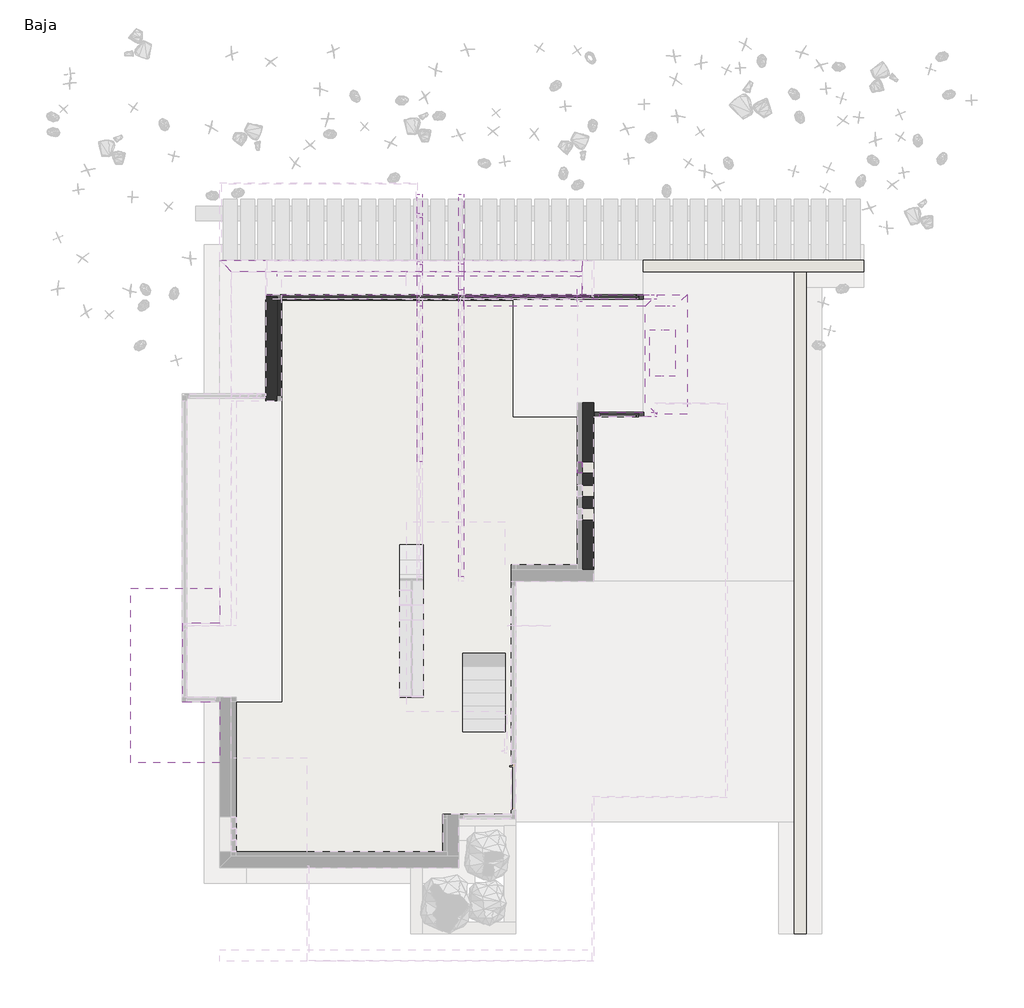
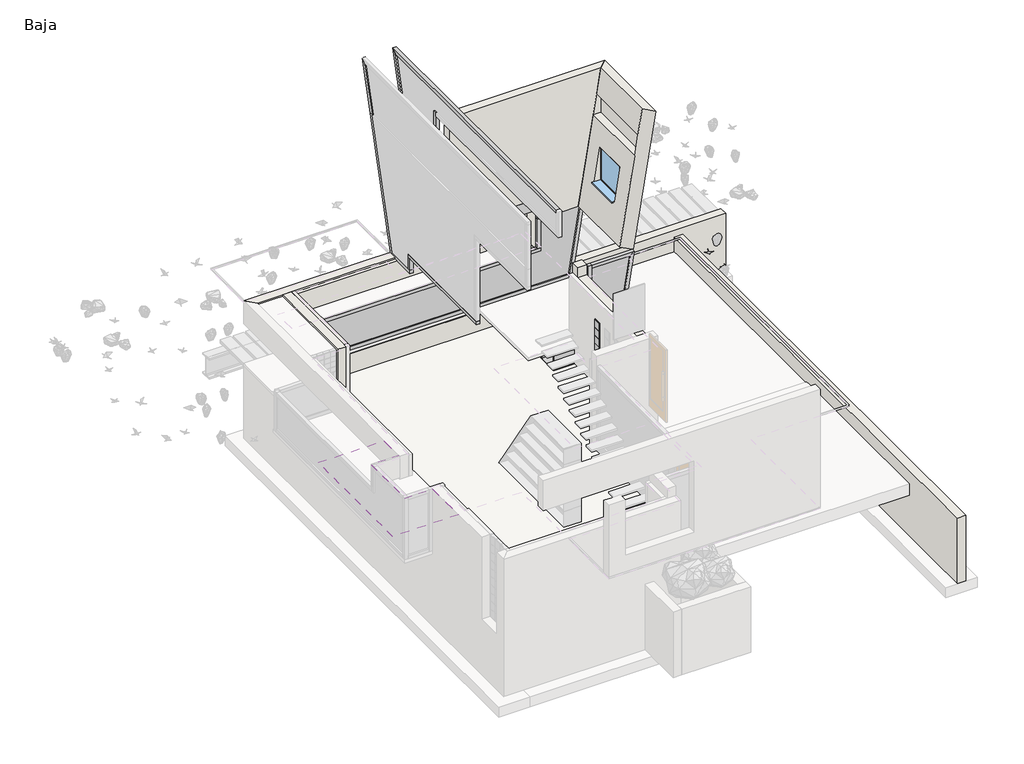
# One storey, part 4 of 7: 62 members, 13 walls, 12 plates, 1 covering, 1 slab, 1 window.
"""IFC4 building model written with IfcOpenShell, lengths in millimetres."""

from ifc_helpers import new_model, si_unit, frame, origin, place, context, project, spatial, polyline, outline, extrude, faceted_brep, transform, mapped, element, save
from components import montante_rectangular_20dad572, montante_rectangular_c9d8d644, montante_rectangular_d329d11d, montante_rectangular_d5d69b61, montante_rectangular_8270ee6e, montante_rectangular_849fd185, montante_rectangular_d17c8d82, montante_rectangular_a98bdce8, montante_rectangular_35cfc2e4, montante_rectangular_3e73b5a5, montante_rectangular_c3090772, montante_rectangular_cd6e0c02, montante_rectangular_30c55d37, montante_rectangular_b00ed3f1, montante_rectangular_montante_rectangular_10_x_10_cm_6ed3e390, montante_rectangular_montante_rectangular_10_x_10_cm_2e299aec, montante_rectangular_montante_rectangular_10_x_10_cm_8c97cb68, montante_rectangular_montante_rectangular_10_x_10_cm_cb36bce1, montante_rectangular_montante_rectangular_10_x_10_cm_84f536c5, montante_rectangular_montante_rectangular_10_x_10_cm_149f6d21, montante_rectangular_montante_rectangular_10_x_10_cm_9985ee12, montante_rectangular_montante_rectangular_10_x_10_cm_4f0e651d, montante_rectangular_montante_rectangular_10_x_10_cm_c94324d3, montante_rectangular_montante_rectangular_10_x_10_cm_7f4e9e92, montante_rectangular_montante_rectangular_10_x_10_cm_2760fa18, montante_rectangular_montante_rectangular_10_x_10_cm_9caafa42, montante_rectangular_montante_rectangular_10_x_10_cm_531712c0, montante_rectangular_montante_rectangular_10_x_10_cm_71f1473e, montante_rectangular_montante_rectangular_10_x_10_cm_c4aca977, montante_rectangular_montante_rectangular_10_x_10_cm_7a5472a0, montante_rectangular_montante_rectangular_10_x_10_cm_7ee5f2cd, montante_rectangular_montante_rectangular_10_x_10_cm_d168aece, montante_rectangular_montante_rectangular_10_x_10_cm_c63b47b4, montante_rectangular_montante_rectangular_10_x_10_cm_e4f58bcd, panel_de_sistema_f0514aad, panel_de_sistema_5076b700, panel_de_sistema_acristalado_03b9b68e, panel_de_sistema_acristalado_d22bfecd, panel_de_sistema_acristalado_60d12fba, panel_de_sistema_uniforme_6832dad9, ventana_simple_100_x_100_cm_c94a0fc4

model = new_model("IFC4")

# Units and contexts
model_context = context("Model", 3, world=origin())
ifc_project = project(units=[si_unit("LENGTHUNIT", "METRE", prefix="MILLI")], contexts=[model_context])

# Site, building, storey
site = spatial("IfcSite", under=ifc_project)
building = spatial("IfcBuilding", under=site)
storey = spatial("IfcBuildingStorey", under=building, Name="Baja", Elevation=0.0)

# Covering
placement = place(None, origin())
element("IfcCovering", 1, ObjectType="Techo falso de placa de metal", at=placement, inside=storey, context=model_context, shape_type="SweptSolid", body=[
    extrude(outline(polyline([(-6131.0601801, -4412.6669037), (-4231.0601801, -4412.6669037), (-4231.0601801, -5162.6669037), (-5031.0601801, -5162.6669037), (-5031.0601801, -6838.9241022), (-4231.0601801, -6838.9241022), (-4231.0601801, -8142.6669037), (-6131.0601801, -8142.6669037), (-6131.0601801, -4412.6669037)])), frame((0.0, 0.0, 2690.0), z_axis=(0.0, 0.0, 1.0), x_axis=(1.0, 0.0, 0.0)), (0.0, 0.0, 1.0), 10.0),
])

# Members
montante_rectangular_shape = montante_rectangular_20dad572(model_context)
element("IfcMember", 2, ObjectType="Montante rectangular : Junta de paves", at=placement, inside=storey, context=model_context, shape_type="MappedRepresentation", body=[
    mapped(montante_rectangular_shape, transform((3468.9398199, -1942.9261329, 2100.0), x_axis=(0.0, 0.0, 1.0), y_axis=(-1.0, 0.0, 0.0), z_axis=(0.0, -1.0, 0.0))),
])
montante_rectangular_2_shape = montante_rectangular_c9d8d644(model_context)
element("IfcMember", 3, ObjectType="Montante rectangular : Junta de paves", at=placement, inside=storey, context=model_context, shape_type="MappedRepresentation", body=[
    mapped(montante_rectangular_2_shape, transform((3468.9398199, -1712.9261329, 100.0), x_axis=(0.0, 0.0, -1.0), y_axis=(-1.0, 0.0, 0.0), z_axis=(0.0, 1.0, 0.0))),
])
montante_rectangular_3_shape = montante_rectangular_d329d11d(model_context)
element("IfcMember", 4, ObjectType="Montante rectangular : Junta de paves", at=placement, inside=storey, context=model_context, shape_type="MappedRepresentation", body=[
    mapped(montante_rectangular_3_shape, transform((3468.9398199, -1942.9261329, 350.0), x_axis=(0.0, 0.0, 1.0), y_axis=(-1.0, 0.0, 0.0), z_axis=(0.0, -1.0, 0.0))),
])
element("IfcMember", 5, ObjectType="Montante rectangular : Junta de paves", at=placement, inside=storey, context=model_context, shape_type="MappedRepresentation", body=[
    mapped(montante_rectangular_3_shape, transform((3468.9398199, -1942.9261329, 600.0), x_axis=(0.0, 0.0, 1.0), y_axis=(-1.0, 0.0, 0.0), z_axis=(0.0, -1.0, 0.0))),
])
element("IfcMember", 6, ObjectType="Montante rectangular : Junta de paves", at=placement, inside=storey, context=model_context, shape_type="MappedRepresentation", body=[
    mapped(montante_rectangular_3_shape, transform((3468.9398199, -1942.9261329, 850.0), x_axis=(0.0, 0.0, 1.0), y_axis=(-1.0, 0.0, 0.0), z_axis=(0.0, -1.0, 0.0))),
])
element("IfcMember", 7, ObjectType="Montante rectangular : Junta de paves", at=placement, inside=storey, context=model_context, shape_type="MappedRepresentation", body=[
    mapped(montante_rectangular_3_shape, transform((3468.9398199, -1942.9261329, 1100.0), x_axis=(0.0, 0.0, 1.0), y_axis=(-1.0, 0.0, 0.0), z_axis=(0.0, -1.0, 0.0))),
])
element("IfcMember", 8, ObjectType="Montante rectangular : Junta de paves", at=placement, inside=storey, context=model_context, shape_type="MappedRepresentation", body=[
    mapped(montante_rectangular_3_shape, transform((3468.9398199, -1942.9261329, 1350.0), x_axis=(0.0, 0.0, 1.0), y_axis=(-1.0, 0.0, 0.0), z_axis=(0.0, -1.0, 0.0))),
])
element("IfcMember", 9, ObjectType="Montante rectangular : Junta de paves", at=placement, inside=storey, context=model_context, shape_type="MappedRepresentation", body=[
    mapped(montante_rectangular_3_shape, transform((3468.9398199, -1942.9261329, 1600.0), x_axis=(0.0, 0.0, 1.0), y_axis=(-1.0, 0.0, 0.0), z_axis=(0.0, -1.0, 0.0))),
])
element("IfcMember", 10, ObjectType="Montante rectangular : Junta de paves", at=placement, inside=storey, context=model_context, shape_type="MappedRepresentation", body=[
    mapped(montante_rectangular_3_shape, transform((3468.9398199, -1942.9261329, 1850.0), x_axis=(0.0, 0.0, 1.0), y_axis=(-1.0, 0.0, 0.0), z_axis=(0.0, -1.0, 0.0))),
])
montante_rectangular_4_shape = montante_rectangular_d5d69b61(model_context)
element("IfcMember", 11, ObjectType="Montante rectangular : Junta de paves", at=placement, inside=storey, context=model_context, shape_type="MappedRepresentation", body=[
    mapped(montante_rectangular_4_shape, transform((3468.9398199, -1952.9261329, 100.0), x_axis=(0.0, -1.0, 0.0), y_axis=(-1.0, 0.0, 0.0), z_axis=(0.0, 0.0, -1.0))),
])
element("IfcMember", 12, ObjectType="Montante rectangular : Junta de paves", at=placement, inside=storey, context=model_context, shape_type="MappedRepresentation", body=[
    mapped(montante_rectangular_4_shape, transform((3468.9398199, -1952.9261329, 350.0), x_axis=(0.0, -1.0, 0.0), y_axis=(-1.0, 0.0, 0.0), z_axis=(0.0, 0.0, -1.0))),
])
element("IfcMember", 13, ObjectType="Montante rectangular : Junta de paves", at=placement, inside=storey, context=model_context, shape_type="MappedRepresentation", body=[
    mapped(montante_rectangular_4_shape, transform((3468.9398199, -1952.9261329, 600.0), x_axis=(0.0, -1.0, 0.0), y_axis=(-1.0, 0.0, 0.0), z_axis=(0.0, 0.0, -1.0))),
])
element("IfcMember", 14, ObjectType="Montante rectangular : Junta de paves", at=placement, inside=storey, context=model_context, shape_type="MappedRepresentation", body=[
    mapped(montante_rectangular_4_shape, transform((3468.9398199, -1952.9261329, 850.0), x_axis=(0.0, -1.0, 0.0), y_axis=(-1.0, 0.0, 0.0), z_axis=(0.0, 0.0, -1.0))),
])
element("IfcMember", 15, ObjectType="Montante rectangular : Junta de paves", at=placement, inside=storey, context=model_context, shape_type="MappedRepresentation", body=[
    mapped(montante_rectangular_4_shape, transform((3468.9398199, -1952.9261329, 1100.0), x_axis=(0.0, -1.0, 0.0), y_axis=(-1.0, 0.0, 0.0), z_axis=(0.0, 0.0, -1.0))),
])
element("IfcMember", 16, ObjectType="Montante rectangular : Junta de paves", at=placement, inside=storey, context=model_context, shape_type="MappedRepresentation", body=[
    mapped(montante_rectangular_4_shape, transform((3468.9398199, -1952.9261329, 1350.0), x_axis=(0.0, -1.0, 0.0), y_axis=(-1.0, 0.0, 0.0), z_axis=(0.0, 0.0, -1.0))),
])
element("IfcMember", 17, ObjectType="Montante rectangular : Junta de paves", at=placement, inside=storey, context=model_context, shape_type="MappedRepresentation", body=[
    mapped(montante_rectangular_4_shape, transform((3468.9398199, -1952.9261329, 1600.0), x_axis=(0.0, -1.0, 0.0), y_axis=(-1.0, 0.0, 0.0), z_axis=(0.0, 0.0, -1.0))),
])
element("IfcMember", 18, ObjectType="Montante rectangular : Junta de paves", at=placement, inside=storey, context=model_context, shape_type="MappedRepresentation", body=[
    mapped(montante_rectangular_4_shape, transform((3468.9398199, -1952.9261329, 1850.0), x_axis=(0.0, -1.0, 0.0), y_axis=(-1.0, 0.0, 0.0), z_axis=(0.0, 0.0, -1.0))),
])
montante_rectangular_5_shape = montante_rectangular_8270ee6e(model_context)
element("IfcMember", 19, ObjectType="Montante rectangular : Junta de paves", at=placement, inside=storey, context=model_context, shape_type="MappedRepresentation", body=[
    mapped(montante_rectangular_5_shape, transform((3468.9398199, -1702.9261329, 2100.0), x_axis=(0.0, 1.0, 0.0), y_axis=(-1.0, 0.0, 0.0), z_axis=(0.0, 0.0, 1.0))),
])
element("IfcMember", 20, ObjectType="Montante rectangular : Junta de paves", at=placement, inside=storey, context=model_context, shape_type="MappedRepresentation", body=[
    mapped(montante_rectangular_5_shape, transform((3468.9398199, -1702.9261329, 350.0), x_axis=(0.0, 1.0, 0.0), y_axis=(-1.0, 0.0, 0.0), z_axis=(0.0, 0.0, 1.0))),
])
element("IfcMember", 21, ObjectType="Montante rectangular : Junta de paves", at=placement, inside=storey, context=model_context, shape_type="MappedRepresentation", body=[
    mapped(montante_rectangular_5_shape, transform((3468.9398199, -1702.9261329, 600.0), x_axis=(0.0, 1.0, 0.0), y_axis=(-1.0, 0.0, 0.0), z_axis=(0.0, 0.0, 1.0))),
])
element("IfcMember", 22, ObjectType="Montante rectangular : Junta de paves", at=placement, inside=storey, context=model_context, shape_type="MappedRepresentation", body=[
    mapped(montante_rectangular_5_shape, transform((3468.9398199, -1702.9261329, 850.0), x_axis=(0.0, 1.0, 0.0), y_axis=(-1.0, 0.0, 0.0), z_axis=(0.0, 0.0, 1.0))),
])
element("IfcMember", 23, ObjectType="Montante rectangular : Junta de paves", at=placement, inside=storey, context=model_context, shape_type="MappedRepresentation", body=[
    mapped(montante_rectangular_5_shape, transform((3468.9398199, -1702.9261329, 1100.0), x_axis=(0.0, 1.0, 0.0), y_axis=(-1.0, 0.0, 0.0), z_axis=(0.0, 0.0, 1.0))),
])
element("IfcMember", 24, ObjectType="Montante rectangular : Junta de paves", at=placement, inside=storey, context=model_context, shape_type="MappedRepresentation", body=[
    mapped(montante_rectangular_5_shape, transform((3468.9398199, -1702.9261329, 1350.0), x_axis=(0.0, 1.0, 0.0), y_axis=(-1.0, 0.0, 0.0), z_axis=(0.0, 0.0, 1.0))),
])
element("IfcMember", 25, ObjectType="Montante rectangular : Junta de paves", at=placement, inside=storey, context=model_context, shape_type="MappedRepresentation", body=[
    mapped(montante_rectangular_5_shape, transform((3468.9398199, -1702.9261329, 1600.0), x_axis=(0.0, 1.0, 0.0), y_axis=(-1.0, 0.0, 0.0), z_axis=(0.0, 0.0, 1.0))),
])
element("IfcMember", 26, ObjectType="Montante rectangular : Junta de paves", at=placement, inside=storey, context=model_context, shape_type="MappedRepresentation", body=[
    mapped(montante_rectangular_5_shape, transform((3468.9398199, -1702.9261329, 1850.0), x_axis=(0.0, 1.0, 0.0), y_axis=(-1.0, 0.0, 0.0), z_axis=(0.0, 0.0, 1.0))),
])
montante_rectangular_6_shape = montante_rectangular_849fd185(model_context)
element("IfcMember", 27, ObjectType="Montante rectangular : CIRCLES 2", at=placement, inside=storey, context=model_context, shape_type="MappedRepresentation", body=[
    mapped(montante_rectangular_6_shape, transform((3168.9398199, -83.1853621, 700.0), x_axis=(0.0, 0.0, 1.0), y_axis=(1.0, 0.0, 0.0), z_axis=(0.0, 1.0, 0.0))),
])
montante_rectangular_7_shape = montante_rectangular_d17c8d82(model_context)
element("IfcMember", 28, ObjectType="Montante rectangular : CIRCLES 2", at=placement, inside=storey, context=model_context, shape_type="MappedRepresentation", body=[
    mapped(montante_rectangular_7_shape, transform((3168.9398199, 516.8146379, 700.0), x_axis=(0.0, 0.0, 1.0), y_axis=(1.0, 0.0, 0.0), z_axis=(0.0, 1.0, 0.0))),
])
element("IfcMember", 29, ObjectType="Montante rectangular : CIRCLES 2", at=placement, inside=storey, context=model_context, shape_type="MappedRepresentation", body=[
    mapped(montante_rectangular_7_shape, transform((3168.9398199, 1116.8146379, 700.0), x_axis=(0.0, 0.0, 1.0), y_axis=(1.0, 0.0, 0.0), z_axis=(0.0, 1.0, 0.0))),
])
element("IfcMember", 30, ObjectType="Montante rectangular : CIRCLES 2", at=placement, inside=storey, context=model_context, shape_type="MappedRepresentation", body=[
    mapped(montante_rectangular_7_shape, transform((3168.9398199, 1716.8146379, 700.0), x_axis=(0.0, 0.0, 1.0), y_axis=(1.0, 0.0, 0.0), z_axis=(0.0, 1.0, 0.0))),
])
montante_rectangular_8_shape = montante_rectangular_a98bdce8(model_context)
element("IfcMember", 31, ObjectType="Montante rectangular : CIRCLES 2", at=placement, inside=storey, context=model_context, shape_type="MappedRepresentation", body=[
    mapped(montante_rectangular_8_shape, transform((3168.9398199, -693.1853621, 100.0), x_axis=(0.0, 0.0, -1.0), y_axis=(1.0, 0.0, 0.0), z_axis=(0.0, -1.0, 0.0))),
])
montante_rectangular_9_shape = montante_rectangular_35cfc2e4(model_context)
element("IfcMember", 32, ObjectType="Montante rectangular : CIRCLES 2", at=placement, inside=storey, context=model_context, shape_type="MappedRepresentation", body=[
    mapped(montante_rectangular_9_shape, transform((3168.9398199, -83.1853621, 100.0), x_axis=(0.0, 0.0, -1.0), y_axis=(1.0, 0.0, 0.0), z_axis=(0.0, -1.0, 0.0))),
])
element("IfcMember", 33, ObjectType="Montante rectangular : CIRCLES 2", at=placement, inside=storey, context=model_context, shape_type="MappedRepresentation", body=[
    mapped(montante_rectangular_9_shape, transform((3168.9398199, 516.8146379, 100.0), x_axis=(0.0, 0.0, -1.0), y_axis=(1.0, 0.0, 0.0), z_axis=(0.0, -1.0, 0.0))),
])
element("IfcMember", 34, ObjectType="Montante rectangular : CIRCLES 2", at=placement, inside=storey, context=model_context, shape_type="MappedRepresentation", body=[
    mapped(montante_rectangular_9_shape, transform((3168.9398199, 1116.8146379, 100.0), x_axis=(0.0, 0.0, -1.0), y_axis=(1.0, 0.0, 0.0), z_axis=(0.0, -1.0, 0.0))),
])
montante_rectangular_10_shape = montante_rectangular_3e73b5a5(model_context)
element("IfcMember", 35, ObjectType="Montante rectangular : CIRCLES 2", at=placement, inside=storey, context=model_context, shape_type="MappedRepresentation", body=[
    mapped(montante_rectangular_10_shape, transform((3168.9398199, -83.1853621, 120.0), x_axis=(0.0, 1.0, 0.0), y_axis=(1.0, 0.0, 0.0), z_axis=(0.0, 0.0, -1.0))),
])
element("IfcMember", 36, ObjectType="Montante rectangular : CIRCLES 2", at=placement, inside=storey, context=model_context, shape_type="MappedRepresentation", body=[
    mapped(montante_rectangular_10_shape, transform((3168.9398199, 516.8146379, 120.0), x_axis=(0.0, 1.0, 0.0), y_axis=(1.0, 0.0, 0.0), z_axis=(0.0, 0.0, -1.0))),
])
element("IfcMember", 37, ObjectType="Montante rectangular : CIRCLES 2", at=placement, inside=storey, context=model_context, shape_type="MappedRepresentation", body=[
    mapped(montante_rectangular_10_shape, transform((3168.9398199, 1116.8146379, 120.0), x_axis=(0.0, 1.0, 0.0), y_axis=(1.0, 0.0, 0.0), z_axis=(0.0, 0.0, -1.0))),
])
element("IfcMember", 38, ObjectType="Montante rectangular : CIRCLES 2", at=placement, inside=storey, context=model_context, shape_type="MappedRepresentation", body=[
    mapped(montante_rectangular_10_shape, transform((3168.9398199, 1716.8146379, 120.0), x_axis=(0.0, 1.0, 0.0), y_axis=(1.0, 0.0, 0.0), z_axis=(0.0, 0.0, -1.0))),
])
montante_rectangular_11_shape = montante_rectangular_c3090772(model_context)
element("IfcMember", 39, ObjectType="Montante rectangular : CIRCLES 2", at=placement, inside=storey, context=model_context, shape_type="MappedRepresentation", body=[
    mapped(montante_rectangular_11_shape, transform((3168.9398199, 1744.072658, 120.0), x_axis=(0.0, 1.0, 0.0), y_axis=(1.0, 0.0, 0.0), z_axis=(0.0, 0.0, -1.0))),
])
montante_rectangular_12_shape = montante_rectangular_cd6e0c02(model_context)
element("IfcMember", 40, ObjectType="Montante rectangular : CIRCLES 2", at=placement, inside=storey, context=model_context, shape_type="MappedRepresentation", body=[
    mapped(montante_rectangular_12_shape, transform((3168.9398199, -693.1853621, 680.0), x_axis=(0.0, -1.0, 0.0), y_axis=(1.0, 0.0, 0.0), z_axis=(0.0, 0.0, 1.0))),
])
montante_rectangular_13_shape = montante_rectangular_30c55d37(model_context)
element("IfcMember", 41, ObjectType="Montante rectangular : CIRCLES 2", at=placement, inside=storey, context=model_context, shape_type="MappedRepresentation", body=[
    mapped(montante_rectangular_13_shape, transform((3168.9398199, 1744.072658, 700.0), x_axis=(0.0, 0.0, 1.0), y_axis=(1.0, 0.0, 0.0), z_axis=(0.0, 1.0, 0.0))),
])
montante_rectangular_14_shape = montante_rectangular_b00ed3f1(model_context)
element("IfcMember", 42, ObjectType="Montante rectangular : CIRCLES 2", at=placement, inside=storey, context=model_context, shape_type="MappedRepresentation", body=[
    mapped(montante_rectangular_14_shape, transform((3168.9398199, 1716.8146379, 100.0), x_axis=(0.0, 0.0, -1.0), y_axis=(1.0, 0.0, 0.0), z_axis=(0.0, -1.0, 0.0))),
])
montante_rectangular_montante_rectangular_10_x_10_cm_shape = montante_rectangular_montante_rectangular_10_x_10_cm_6ed3e390(model_context)
element("IfcMember", 43, ObjectType="Montante rectangular : Montante rectangular - 10 x 10 cm", at=placement, inside=storey, context=model_context, shape_type="MappedRepresentation", body=[
    mapped(montante_rectangular_montante_rectangular_10_x_10_cm_shape, transform((3793.9398199, -693.1853621, 2980.0), x_axis=(-1.0, 0.0, 0.0), y_axis=(0.0, -1.0, 0.0), z_axis=(0.0, 0.0, 1.0))),
])
montante_rectangular_montante_rectangular_10_x_10_cm_2_shape = montante_rectangular_montante_rectangular_10_x_10_cm_2e299aec(model_context)
element("IfcMember", 44, ObjectType="Montante rectangular : Montante rectangular - 10 x 10 cm", at=placement, inside=storey, context=model_context, shape_type="MappedRepresentation", body=[
    mapped(montante_rectangular_montante_rectangular_10_x_10_cm_2_shape, transform((4768.9398199, 1819.072658, 800.0), x_axis=(0.0, 0.0, -1.0), y_axis=(0.0, 1.0, 0.0), z_axis=(1.0, 0.0, 0.0))),
])
montante_rectangular_montante_rectangular_10_x_10_cm_3_shape = montante_rectangular_montante_rectangular_10_x_10_cm_8c97cb68(model_context)
element("IfcMember", 45, ObjectType="Montante rectangular : Montante rectangular - 10 x 10 cm", at=placement, inside=storey, context=model_context, shape_type="MappedRepresentation", body=[
    mapped(montante_rectangular_montante_rectangular_10_x_10_cm_3_shape, transform((3893.9398199, -693.1853621, 800.0), x_axis=(0.0, 0.0, -1.0), y_axis=(0.0, -1.0, 0.0), z_axis=(-1.0, 0.0, 0.0))),
])
montante_rectangular_montante_rectangular_10_x_10_cm_4_shape = montante_rectangular_montante_rectangular_10_x_10_cm_cb36bce1(model_context)
element("IfcMember", 46, ObjectType="Montante rectangular : Montante rectangular - 10 x 10 cm", at=placement, inside=storey, context=model_context, shape_type="MappedRepresentation", body=[
    mapped(montante_rectangular_montante_rectangular_10_x_10_cm_4_shape, transform((5121.690629, -693.1853621, 2980.0), x_axis=(0.0, 0.0, 1.0), y_axis=(0.0, -1.0, 0.0), z_axis=(1.0, 0.0, 0.0))),
])
montante_rectangular_montante_rectangular_10_x_10_cm_5_shape = montante_rectangular_montante_rectangular_10_x_10_cm_84f536c5(model_context)
element("IfcMember", 47, ObjectType="Montante rectangular : Montante rectangular - 10 x 10 cm", at=placement, inside=storey, context=model_context, shape_type="MappedRepresentation", body=[
    mapped(montante_rectangular_montante_rectangular_10_x_10_cm_5_shape, transform((4768.9398199, -693.1853621, 800.0), x_axis=(0.9871599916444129, 0.0, -0.159734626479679), y_axis=(0.0, -1.0, 0.0), z_axis=(-0.159734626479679, 0.0, -0.9871599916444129))),
])
montante_rectangular_montante_rectangular_10_x_10_cm_6_shape = montante_rectangular_montante_rectangular_10_x_10_cm_149f6d21(model_context)
element("IfcMember", 48, ObjectType="Montante rectangular : Montante rectangular - 10 x 10 cm", at=placement, inside=storey, context=model_context, shape_type="MappedRepresentation", body=[
    mapped(montante_rectangular_montante_rectangular_10_x_10_cm_6_shape, transform((49.1398199, 2583.8536339, 2650.0), x_axis=(0.0, 0.0, -1.0), y_axis=(-1.0, 0.0, 0.0), z_axis=(0.0, 1.0, 0.0))),
])
montante_rectangular_montante_rectangular_10_x_10_cm_7_shape = montante_rectangular_montante_rectangular_10_x_10_cm_9985ee12(model_context)
element("IfcMember", 49, ObjectType="Montante rectangular : Montante rectangular - 10 x 10 cm", at=placement, inside=storey, context=model_context, shape_type="MappedRepresentation", body=[
    mapped(montante_rectangular_montante_rectangular_10_x_10_cm_7_shape, transform((49.1398199, 1719.072658, 3100.0), x_axis=(0.0, 0.0, -1.0), y_axis=(-1.0, 0.0, 0.0), z_axis=(0.0, 1.0, 0.0))),
])
montante_rectangular_montante_rectangular_10_x_10_cm_8_shape = montante_rectangular_montante_rectangular_10_x_10_cm_4f0e651d(model_context)
element("IfcMember", 50, ObjectType="Montante rectangular : Montante rectangular - 10 x 10 cm", at=placement, inside=storey, context=model_context, shape_type="MappedRepresentation", body=[
    mapped(montante_rectangular_montante_rectangular_10_x_10_cm_8_shape, transform((49.1398199, 4011.8960075, 7790.0), x_axis=(0.0, 0.9635051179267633, -0.26768990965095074), y_axis=(-1.0, 0.0, 0.0), z_axis=(0.0, 0.26768990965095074, 0.9635051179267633))),
])
montante_rectangular_montante_rectangular_10_x_10_cm_9_shape = montante_rectangular_montante_rectangular_10_x_10_cm_c94324d3(model_context)
element("IfcMember", 51, ObjectType="Montante rectangular : Montante rectangular - 10 x 10 cm", at=placement, inside=storey, context=model_context, shape_type="MappedRepresentation", body=[
    mapped(montante_rectangular_montante_rectangular_10_x_10_cm_9_shape, transform((49.1398199, 3609.043587, 6340.0), x_axis=(0.0, 0.9635051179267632, -0.2676899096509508), y_axis=(-1.0, 0.0, 0.0), z_axis=(0.0, 0.2676899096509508, 0.9635051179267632))),
])
montante_rectangular_montante_rectangular_10_x_10_cm_10_shape = montante_rectangular_montante_rectangular_10_x_10_cm_7f4e9e92(model_context)
element("IfcMember", 52, ObjectType="Montante rectangular : Montante rectangular - 10 x 10 cm", at=placement, inside=storey, context=model_context, shape_type="MappedRepresentation", body=[
    mapped(montante_rectangular_montante_rectangular_10_x_10_cm_10_shape, transform((3768.9398199, 1819.072658, 3000.0), x_axis=(0.0, 0.0, 1.0), y_axis=(0.0, 1.0, 0.0), z_axis=(-1.0, 0.0, 0.0))),
])
montante_rectangular_montante_rectangular_10_x_10_cm_11_shape = montante_rectangular_montante_rectangular_10_x_10_cm_2760fa18(model_context)
element("IfcMember", 53, ObjectType="Montante rectangular : Montante rectangular - 10 x 10 cm", at=placement, inside=storey, context=model_context, shape_type="MappedRepresentation", body=[
    mapped(montante_rectangular_montante_rectangular_10_x_10_cm_11_shape, transform((-3250.1061235, 1819.072658, 2000.0), x_axis=(0.0, 0.0, 1.0), y_axis=(0.0, 1.0, 0.0), z_axis=(-1.0, 0.0, 0.0))),
])
montante_rectangular_montante_rectangular_10_x_10_cm_12_shape = montante_rectangular_montante_rectangular_10_x_10_cm_9caafa42(model_context)
element("IfcMember", 54, ObjectType="Montante rectangular : Montante rectangular - 10 x 10 cm", at=placement, inside=storey, context=model_context, shape_type="MappedRepresentation", body=[
    mapped(montante_rectangular_montante_rectangular_10_x_10_cm_12_shape, transform((5121.690629, 1819.072658, 3000.0), x_axis=(0.9873880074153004, 0.0, -0.1583190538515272), y_axis=(0.0, 1.0, 0.0), z_axis=(0.15831905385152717, 0.0, 0.9873880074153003))),
])
montante_rectangular_montante_rectangular_10_x_10_cm_13_shape = montante_rectangular_montante_rectangular_10_x_10_cm_531712c0(model_context)
element("IfcMember", 55, ObjectType="Montante rectangular : Montante rectangular - 10 x 10 cm", at=placement, inside=storey, context=model_context, shape_type="MappedRepresentation", body=[
    mapped(montante_rectangular_montante_rectangular_10_x_10_cm_13_shape, transform((-2900.1061235, 1819.072658, 2000.0), x_axis=(0.0, 0.0, 1.0), y_axis=(0.0, 1.0, 0.0), z_axis=(-1.0, 0.0, 0.0))),
])
montante_rectangular_montante_rectangular_10_x_10_cm_14_shape = montante_rectangular_montante_rectangular_10_x_10_cm_71f1473e(model_context)
element("IfcMember", 56, ObjectType="Montante rectangular : Montante rectangular - 10 x 10 cm", at=placement, inside=storey, context=model_context, shape_type="MappedRepresentation", body=[
    mapped(montante_rectangular_montante_rectangular_10_x_10_cm_14_shape, transform((-2900.1061235, 1819.072658, 800.0), x_axis=(0.0, 0.0, -1.0), y_axis=(0.0, 1.0, 0.0), z_axis=(1.0, 0.0, 0.0))),
])
montante_rectangular_montante_rectangular_10_x_10_cm_15_shape = montante_rectangular_montante_rectangular_10_x_10_cm_c4aca977(model_context)
element("IfcMember", 57, ObjectType="Montante rectangular : Montante rectangular - 10 x 10 cm", at=placement, inside=storey, context=model_context, shape_type="MappedRepresentation", body=[
    mapped(montante_rectangular_montante_rectangular_10_x_10_cm_15_shape, transform((-3250.1061235, 1819.072658, 900.0), x_axis=(-1.0, 0.0, 0.0), y_axis=(0.0, 1.0, 0.0), z_axis=(0.0, 0.0, -1.0))),
])
montante_rectangular_montante_rectangular_10_x_10_cm_16_shape = montante_rectangular_montante_rectangular_10_x_10_cm_7a5472a0(model_context)
element("IfcMember", 58, ObjectType="Montante rectangular : Montante rectangular - 10 x 10 cm", at=placement, inside=storey, context=model_context, shape_type="MappedRepresentation", body=[
    mapped(montante_rectangular_montante_rectangular_10_x_10_cm_16_shape, transform((3768.9398199, 1819.072658, 2000.0), x_axis=(-1.0, 0.0, 0.0), y_axis=(0.0, 1.0, 0.0), z_axis=(0.0, 0.0, -1.0))),
])
element("IfcMember", 59, ObjectType="Montante rectangular : Montante rectangular - 10 x 10 cm", at=placement, inside=storey, context=model_context, shape_type="MappedRepresentation", body=[
    mapped(montante_rectangular_montante_rectangular_10_x_10_cm_11_shape, transform((49.1398199, 1619.072658, 2750.0), x_axis=(0.0, -1.0, 0.0), y_axis=(-1.0, 0.0, 0.0), z_axis=(0.0, 0.0, -1.0))),
])
montante_rectangular_montante_rectangular_10_x_10_cm_17_shape = montante_rectangular_montante_rectangular_10_x_10_cm_7ee5f2cd(model_context)
element("IfcMember", 60, ObjectType="Montante rectangular : Montante rectangular - 10 x 10 cm", at=placement, inside=storey, context=model_context, shape_type="MappedRepresentation", body=[
    mapped(montante_rectangular_montante_rectangular_10_x_10_cm_17_shape, transform((935.5350958, 4011.8960075, 7790.0), x_axis=(0.0, 0.0, 1.0), y_axis=(1.0, 0.0, 0.0), z_axis=(0.0, 1.0, 0.0))),
])
montante_rectangular_montante_rectangular_10_x_10_cm_18_shape = montante_rectangular_montante_rectangular_10_x_10_cm_d168aece(model_context)
element("IfcMember", 61, ObjectType="Montante rectangular : Montante rectangular - 10 x 10 cm", at=placement, inside=storey, context=model_context, shape_type="MappedRepresentation", body=[
    mapped(montante_rectangular_montante_rectangular_10_x_10_cm_18_shape, transform((935.5350958, 1969.072658, 2700.0), x_axis=(0.0, 0.0, -1.0), y_axis=(1.0, 0.0, 0.0), z_axis=(0.0, -1.0, 0.0))),
])
montante_rectangular_montante_rectangular_10_x_10_cm_19_shape = montante_rectangular_montante_rectangular_10_x_10_cm_c63b47b4(model_context)
element("IfcMember", 62, ObjectType="Montante rectangular : Montante rectangular - 10 x 10 cm", at=placement, inside=storey, context=model_context, shape_type="MappedRepresentation", body=[
    mapped(montante_rectangular_montante_rectangular_10_x_10_cm_19_shape, transform((935.5350958, 2597.7450967, 2700.0), x_axis=(0.0, 0.9635051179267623, -0.26768990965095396), y_axis=(1.0, 0.0, 0.0), z_axis=(0.0, -0.26768990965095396, -0.9635051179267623))),
])
montante_rectangular_montante_rectangular_10_x_10_cm_20_shape = montante_rectangular_montante_rectangular_10_x_10_cm_e4f58bcd(model_context)
element("IfcMember", 63, ObjectType="Montante rectangular : Montante rectangular - 10 x 10 cm", at=placement, inside=storey, context=model_context, shape_type="MappedRepresentation", body=[
    mapped(montante_rectangular_montante_rectangular_10_x_10_cm_20_shape, transform((935.5350958, 1869.072658, 7100.0), x_axis=(0.0, -1.0, 0.0), y_axis=(1.0, 0.0, 0.0), z_axis=(0.0, 0.0, 1.0))),
])

# Plates
panel_de_sistema_shape = panel_de_sistema_f0514aad(model_context)
element("IfcPlate", 64, ObjectType="Panel de sistema : PAVES", at=placement, inside=storey, context=model_context, shape_type="MappedRepresentation", body=[
    mapped(panel_de_sistema_shape, transform((3468.9398199, -1827.9261329, 110.0), x_axis=(0.0, -1.0, 0.0), y_axis=(1.0, 0.0, 0.0), z_axis=(0.0, 0.0, 1.0))),
])
element("IfcPlate", 65, ObjectType="Panel de sistema : PAVES", at=placement, inside=storey, context=model_context, shape_type="MappedRepresentation", body=[
    mapped(panel_de_sistema_shape, transform((3468.9398199, -1827.9261329, 1855.0), x_axis=(0.0, -1.0, 0.0), y_axis=(1.0, 0.0, 0.0), z_axis=(0.0, 0.0, 1.0))),
])
panel_de_sistema_2_shape = panel_de_sistema_5076b700(model_context)
element("IfcPlate", 66, ObjectType="Panel de sistema : PAVES", at=placement, inside=storey, context=model_context, shape_type="MappedRepresentation", body=[
    mapped(panel_de_sistema_2_shape, transform((3468.9398199, -1827.9261329, 355.0), x_axis=(0.0, -1.0, 0.0), y_axis=(1.0, 0.0, 0.0), z_axis=(0.0, 0.0, 1.0))),
])
element("IfcPlate", 67, ObjectType="Panel de sistema : PAVES", at=placement, inside=storey, context=model_context, shape_type="MappedRepresentation", body=[
    mapped(panel_de_sistema_2_shape, transform((3468.9398199, -1827.9261329, 605.0), x_axis=(0.0, -1.0, 0.0), y_axis=(1.0, 0.0, 0.0), z_axis=(0.0, 0.0, 1.0))),
])
element("IfcPlate", 68, ObjectType="Panel de sistema : PAVES", at=placement, inside=storey, context=model_context, shape_type="MappedRepresentation", body=[
    mapped(panel_de_sistema_2_shape, transform((3468.9398199, -1827.9261329, 855.0), x_axis=(0.0, -1.0, 0.0), y_axis=(1.0, 0.0, 0.0), z_axis=(0.0, 0.0, 1.0))),
])
element("IfcPlate", 69, ObjectType="Panel de sistema : PAVES", at=placement, inside=storey, context=model_context, shape_type="MappedRepresentation", body=[
    mapped(panel_de_sistema_2_shape, transform((3468.9398199, -1827.9261329, 1105.0), x_axis=(0.0, -1.0, 0.0), y_axis=(1.0, 0.0, 0.0), z_axis=(0.0, 0.0, 1.0))),
])
element("IfcPlate", 70, ObjectType="Panel de sistema : PAVES", at=placement, inside=storey, context=model_context, shape_type="MappedRepresentation", body=[
    mapped(panel_de_sistema_2_shape, transform((3468.9398199, -1827.9261329, 1355.0), x_axis=(0.0, -1.0, 0.0), y_axis=(1.0, 0.0, 0.0), z_axis=(0.0, 0.0, 1.0))),
])
element("IfcPlate", 71, ObjectType="Panel de sistema : PAVES", at=placement, inside=storey, context=model_context, shape_type="MappedRepresentation", body=[
    mapped(panel_de_sistema_2_shape, transform((3468.9398199, -1827.9261329, 1605.0), x_axis=(0.0, -1.0, 0.0), y_axis=(1.0, 0.0, 0.0), z_axis=(0.0, 0.0, 1.0))),
])
panel_de_sistema_acristalado_shape = panel_de_sistema_acristalado_03b9b68e(model_context)
element("IfcPlate", 72, ObjectType="Panel de sistema : Acristalado", at=placement, inside=storey, context=model_context, shape_type="MappedRepresentation", body=[
    mapped(panel_de_sistema_acristalado_shape, transform((1052.1365346, 1819.072658, 900.0), x_axis=(-1.0, 0.0, 0.0), y_axis=(0.0, -1.0, 0.0), z_axis=(0.0, 0.0, 1.0))),
])
panel_de_sistema_acristalado_2_shape = panel_de_sistema_acristalado_d22bfecd(model_context)
element("IfcPlate", 73, ObjectType="Panel de sistema : Acristalado", at=placement, inside=storey, context=model_context, shape_type="MappedRepresentation", body=[
    mapped(panel_de_sistema_acristalado_2_shape, transform((4449.0742586, -693.1853621, 900.0), x_axis=(1.0, 0.0, 0.0), y_axis=(0.0, 1.0, 0.0), z_axis=(0.0, 0.0, 1.0))),
])
panel_de_sistema_acristalado_3_shape = panel_de_sistema_acristalado_60d12fba(model_context)
element("IfcPlate", 74, ObjectType="Panel de sistema : Acristalado", at=placement, inside=storey, context=model_context, shape_type="MappedRepresentation", body=[
    mapped(panel_de_sistema_acristalado_3_shape, transform((2352.2374579, 1819.072658, 3150.0), x_axis=(-1.0, 0.0, 0.0), y_axis=(0.0, -1.0, 0.0), z_axis=(0.0, 0.0, 1.0))),
])
panel_de_sistema_uniforme_shape = panel_de_sistema_uniforme_6832dad9(model_context)
element("IfcPlate", 75, ObjectType="Panel de sistema : Uniforme", at=placement, inside=storey, context=model_context, shape_type="MappedRepresentation", body=[
    mapped(panel_de_sistema_uniforme_shape, transform((-3025.1061235, 1819.072658, 900.0), x_axis=(-1.0, 0.0, 0.0), y_axis=(0.0, -1.0, 0.0), z_axis=(0.0, 0.0, 1.0))),
])

# Slab
element("IfcSlab", 76, ObjectType="Con bovedilla cerámica - 40 cm", at=placement, inside=storey, context=model_context, shape_type="Brep", body=[
    faceted_brep([(3518.9398199, 2357.3330963, -300.0), (3518.9398199, -4012.6669037, -300.0), (2061.6012558, -4012.6669037, -300.0), (2061.6012558, -9402.6669037, -300.0), (636.8974058, -9402.6669037, -300.0), (636.8974058, -10142.6669037, -300.0), (-3981.0601801, -10142.6669037, -300.0), (-3981.0601801, 2357.3330963, -300.0), (3518.9398199, 2357.3330963, 100.0), (-2900.1061235, 2357.3330963, 100.0), (-3000.1061235, 2357.3330963, 100.0), (-3981.0601801, 2357.3330963, 100.0), (-3981.0601801, -6838.9241022, 100.0), (-3981.0601801, -10142.6669037, 100.0), (-3881.0601801, -10142.6669037, 100.0), (636.8974058, -10142.6669037, 100.0), (636.8974058, -10047.6669037, 100.0), (636.8974058, -9402.6669037, 100.0), (2061.6012558, -9402.6669037, 100.0), (2061.6012558, -4012.6669037, 100.0), (3518.9398199, -4012.6669037, 100.0), (636.8974058, -10142.6669037, 0.0), (-3981.0601801, -10142.6669037, 0.0)], [[[0, 1, 2, 3, 4, 5, 6, 7]], [[8, 9, 10, 11, 12, 13, 14, 15, 16, 17, 18, 19, 20]], [[1, 0, 8, 20]], [[2, 1, 20, 19]], [[3, 2, 19, 18]], [[4, 3, 18, 17]], [[5, 4, 17, 16, 15, 21]], [[6, 5, 21, 15, 14, 13, 22]], [[7, 6, 22, 13, 12, 11]], [[0, 7, 11, 10, 9, 8]]]),
])

# Walls
element("IfcWall", 77, ObjectType="Hormigón - 25 cm", at=placement, inside=storey, context=model_context, shape_type="Brep", body=[
    faceted_brep([(3768.9398199, 2607.3330963, 700.0), (3768.9398199, 2357.3330963, 700.0), (3768.9398199, -443.1853621, 700.0), (3768.9398199, -443.1853621, 2700.0), (3768.9398199, -443.1853621, 3000.0), (3768.9398199, -693.1853621, 3000.0), (3768.9398199, -693.1853621, 2700.0), (3768.9398199, -4012.6669037, 2700.0), (3768.9398199, -4012.6669037, -1500.0), (3768.9398199, 2607.3330963, -1500.0), (3768.9398199, 2607.3330963, -1000.0), (3768.9398199, -1702.9261329, 2100.0), (3768.9398199, -1702.9261329, 100.0), (3768.9398199, -1952.9261329, 100.0), (3768.9398199, -1952.9261329, 2100.0), (3768.9398199, -2452.9261329, 100.0), (3768.9398199, -2452.9261329, 2100.0), (3768.9398199, -2202.9261329, 2100.0), (3768.9398199, -2202.9261329, 100.0), (3768.9398199, -2952.9261329, 100.0), (3768.9398199, -2952.9261329, 2100.0), (3768.9398199, -2702.9261329, 2100.0), (3768.9398199, -2702.9261329, 100.0), (3518.9398199, -443.1853621, 700.0), (3518.9398199, 1744.072658, 700.0), (3518.9398199, 1844.072658, 700.0), (3518.9398199, 2357.3330963, 700.0), (3518.9398199, 2607.3330963, 700.0), (3518.9398199, 2607.3330963, -1500.0), (3518.9398199, 2357.3330963, -1500.0), (3518.9398199, -4012.6669037, -1500.0), (3518.9398199, -4012.6669037, 0.0), (3518.9398199, -4012.6669037, 2700.0), (3518.9398199, -693.1853621, 2700.0), (3518.9398199, -693.1853621, 3000.0), (3518.9398199, -443.1853621, 3000.0), (3518.9398199, -443.1853621, 2700.0), (3518.9398199, -1702.9261329, 100.0), (3518.9398199, -1702.9261329, 2100.0), (3518.9398199, -1952.9261329, 2100.0), (3518.9398199, -1952.9261329, 100.0), (3518.9398199, -2452.9261329, 2100.0), (3518.9398199, -2452.9261329, 100.0), (3518.9398199, -2202.9261329, 100.0), (3518.9398199, -2202.9261329, 2100.0), (3518.9398199, -2952.9261329, 2100.0), (3518.9398199, -2952.9261329, 100.0), (3518.9398199, -2702.9261329, 100.0), (3518.9398199, -2702.9261329, 2100.0)], [[[0, 1, 2, 3, 4, 5, 6, 7, 8, 9, 10], [11, 12, 13, 14], [15, 16, 17, 18], [19, 20, 21, 22]], [[23, 24, 25, 26, 27, 28, 29, 30, 31, 32, 33, 34, 35, 36], [37, 38, 39, 40], [41, 42, 43, 44], [45, 46, 47, 48]], [[2, 1, 0, 27, 26, 25, 24, 23]], [[4, 35, 34, 5]], [[9, 8, 30, 29, 28]], [[30, 8, 7, 32, 31]], [[9, 28, 27, 0, 10]], [[4, 3, 2, 23, 36, 35]], [[6, 33, 32, 7]], [[33, 6, 5, 34]], [[37, 12, 11, 38]], [[13, 40, 39, 14]], [[12, 37, 40, 13]], [[15, 42, 41, 16]], [[43, 18, 17, 44]], [[42, 15, 18, 43]], [[19, 46, 45, 20]], [[47, 22, 21, 48]], [[46, 19, 22, 47]], [[14, 39, 38, 11]], [[44, 17, 16, 41]], [[48, 21, 20, 45]]]),
])
element("IfcWall", 78, ObjectType="Hormigón - 25 cm", at=placement, inside=storey, context=model_context, shape_type="Brep", body=[
    faceted_brep([(-4231.0601801, 2607.3330963, 700.0), (-3250.1061235, 2607.3330963, 700.0), (3518.9398199, 2607.3330963, 700.0), (3518.9398199, 2607.3330963, -1500.0), (-4231.0601801, 2607.3330963, -1500.0), (-3981.0601801, 2357.3330963, 700.0), (-3981.0601801, 2357.3330963, -1500.0), (3518.9398199, 2357.3330963, -1500.0), (3518.9398199, 2357.3330963, 700.0), (-3250.1061235, 2357.3330963, 700.0)], [[[0, 1, 2, 3, 4]], [[5, 6, 7, 8, 9]], [[1, 0, 5, 9]], [[2, 1, 9, 8]], [[4, 3, 7, 6]], [[2, 8, 7, 3]], [[0, 4, 6, 5]]]),
])
element("IfcWall", 79, ObjectType="Hormigón - 25 cm", at=placement, inside=storey, context=model_context, shape_type="Brep", body=[
    faceted_brep([(3518.9398199, 2607.3330963, 2000.0), (-4231.0601801, 2607.3330963, 2000.0), (-4231.0601801, 2607.3330963, 2700.0), (3518.9398199, 2607.3330963, 2700.0), (3518.9398199, 2357.3330963, 2000.0), (3518.9398199, 2357.3330963, 2700.0), (-3000.1061235, 2357.3330963, 2700.0), (-3250.1061235, 2357.3330963, 2700.0), (-3981.0601801, 2357.3330963, 2700.0), (-3981.0601801, 2357.3330963, 2000.0), (-3250.1061235, 2357.3330963, 2000.0), (-3000.1061235, 2357.3330963, 2000.0)], [[[0, 1, 2, 3]], [[4, 5, 6, 7, 8, 9, 10, 11]], [[1, 0, 4, 11, 10, 9]], [[3, 2, 8, 7, 6, 5]], [[2, 1, 9, 8]], [[0, 3, 5, 4]]]),
])
element("IfcWall", 80, ObjectType="Hormigón - 25 cm", at=placement, inside=storey, context=model_context, shape_type="Brep", body=[
    faceted_brep([(3768.9398199, 1869.072658, 3650.0), (3768.9398199, 1869.072658, 2000.0), (3768.9398199, 2607.3330963, 2000.0), (3768.9398199, 2607.3330963, 3650.0), (3518.9398199, 1869.072658, 2000.0), (3518.9398199, 1869.072658, 3000.0), (3518.9398199, 1869.072658, 3500.0), (3518.9398199, 1869.072658, 3650.0), (3518.9398199, 2607.3330963, 3650.0), (3518.9398199, 2607.3330963, 2700.0), (3518.9398199, 2607.3330963, 2000.0), (3518.9398199, 2357.3330963, 2000.0)], [[[0, 1, 2, 3]], [[4, 5, 6, 7, 8, 9, 10, 11]], [[2, 1, 4, 11, 10]], [[0, 3, 8, 7]], [[3, 2, 10, 9, 8]], [[0, 7, 6, 5, 4, 1]]]),
])
element("IfcWall", 81, ObjectType="Hormigón - 25 cm", at=placement, inside=storey, context=model_context, shape_type="Brep", body=[
    faceted_brep([(1135.5350958, 1869.072658, 7000.0), (5768.9398199, 1869.072658, 7000.0), (5121.690629, 1869.072658, 3000.0), (3768.9398199, 1869.072658, 3000.0), (3768.9398199, 1869.072658, 3650.0), (985.5350958, 1869.072658, 3650.0), (985.5350958, 1869.072658, 5700.0), (1135.5350958, 1869.072658, 5700.0), (5515.6880653, 1619.072658, 7000.0), (1135.5350958, 1619.072658, 7000.0), (1135.5350958, 1619.072658, 6250.0), (1135.5350958, 1619.072658, 5700.0), (985.5350958, 1619.072658, 5700.0), (985.5350958, 1619.072658, 5650.0), (985.5350958, 1619.072658, 3650.0), (3768.9398199, 1619.072658, 3650.0), (3768.9398199, 1619.072658, 3000.0), (4868.4388743, 1619.072658, 3000.0), (5297.2414633, 1619.072658, 5650.0), (5394.328842, 1619.072658, 6250.0)], [[[0, 1, 2, 3, 4, 5, 6, 7]], [[8, 9, 10, 11, 12, 13, 14, 15, 16, 17, 18, 19]], [[2, 17, 16, 3]], [[1, 0, 9, 8]], [[2, 1, 8, 19, 18, 17]], [[6, 5, 14, 13, 12]], [[15, 4, 3, 16]], [[4, 15, 14, 5]], [[7, 6, 12, 11]], [[0, 7, 11, 10, 9]]]),
])
element("IfcWall", 82, ObjectType="Hormigón - 25 cm", at=placement, inside=storey, context=model_context, shape_type="Brep", body=[
    faceted_brep([(5515.6880653, -443.1853621, 7000.0), (5515.6880653, 1619.072658, 7000.0), (5394.328842, 1619.072658, 6250.0), (5394.328842, -443.1853621, 6250.0), (4868.4388743, 1619.072658, 3000.0), (4868.4388743, -443.1853621, 3000.0), (5297.2414633, -443.1853621, 5650.0), (5297.2414633, 1619.072658, 5650.0), (5030.2511721, 1119.072658, 4000.0), (5192.0634698, 1119.072658, 5000.0), (5192.0634698, 119.072658, 5000.0), (5030.2511721, 119.072658, 4000.0), (5768.9398199, 1869.072658, 7000.0), (5768.9398199, -693.1853621, 7000.0), (5121.690629, -693.1853621, 3000.0), (5121.690629, -443.1853621, 3000.0), (5121.690629, 1869.072658, 3000.0), (5445.3152245, 1119.072658, 5000.0), (5283.5029267, 1119.072658, 4000.0), (5283.5029267, 119.072658, 4000.0), (5445.3152245, 119.072658, 5000.0), (5515.6880653, 1619.072658, 6250.0), (5515.6880653, -443.1853621, 6250.0), (5515.6880653, 1619.072658, 5650.0), (5515.6880653, 1619.072658, 5700.0), (5515.6880653, -443.1853621, 5650.0), (5515.6880653, -443.1853621, 5700.0)], [[[0, 1, 2, 3]], [[4, 5, 6, 7], [8, 9, 10, 11]], [[12, 13, 14, 15, 16], [17, 18, 19, 20]], [[1, 0, 13, 12]], [[5, 4, 16, 15, 14]], [[12, 16, 4, 7, 2, 1]], [[13, 0, 3, 6, 5, 14]], [[21, 22, 3, 2]], [[21, 2, 7, 23, 24]], [[22, 21, 24, 23, 25, 26]], [[22, 26, 25, 6, 3]], [[25, 23, 7, 6]], [[9, 8, 18, 17]], [[10, 9, 17, 20]], [[11, 10, 20, 19]], [[8, 11, 19, 18]]]),
])
element("IfcWall", 83, ObjectType="Hormigón - 25 cm", at=placement, inside=storey, context=model_context, shape_type="Brep", body=[
    faceted_brep([(-3250.1061235, -399.0350234, 2700.0), (-3250.1061235, 2357.3330963, 2700.0), (-3250.1061235, 2357.3330963, 2000.0), (-3250.1061235, 1819.072658, 2000.0), (-3250.1061235, 1819.072658, 100.0), (-3250.1061235, -399.0350234, 100.0), (-3000.1061235, 2357.3330963, 2700.0), (-3000.1061235, -299.0350234, 2700.0), (-3000.1061235, -399.0350234, 2700.0), (-3000.1061235, -399.0350234, 800.0), (-3000.1061235, -399.0350234, 100.0), (-3000.1061235, 1819.072658, 100.0), (-3000.1061235, 1819.072658, 2000.0), (-3000.1061235, 2357.3330963, 2000.0)], [[[0, 1, 2, 3, 4, 5]], [[6, 7, 8, 9, 10, 11, 12, 13]], [[5, 4, 11, 10]], [[8, 0, 5, 10, 9]], [[1, 0, 8, 7, 6]], [[3, 12, 11, 4]], [[3, 2, 13, 12]], [[2, 1, 6, 13]]]),
])
element("IfcWall", 84, ObjectType="Hormigón - 25", at=placement, inside=storey, context=model_context, shape_type="Brep", body=[
    faceted_brep([(8061.6012558, 2357.3330963, -1500.0), (8061.6012558, -4012.6669037, -1500.0), (8061.6012558, -4262.6669037, -1500.0), (8061.6012558, -11802.6669037, -1500.0), (8061.6012558, -11802.6669037, 500.0), (8061.6012558, 2357.3330963, 500.0), (8311.6012558, 2357.3330963, -1500.0), (8311.6012558, 2357.3330963, 500.0), (8311.6012558, -11802.6669037, 500.0), (8311.6012558, -11802.6669037, -1500.0)], [[[0, 1, 2, 3, 4, 5]], [[6, 7, 8, 9]], [[3, 2, 1, 0, 6, 9]], [[4, 3, 9, 8]], [[5, 4, 8, 7]], [[0, 5, 7, 6]]]),
])
element("IfcWall", 85, ObjectType="Hormigón - 25", at=placement, inside=storey, context=model_context, shape_type="SweptSolid", body=[
    extrude(outline(polyline([(9543.9398199, 2357.3330963), (3768.9398199, 2357.3330963), (3768.9398199, 2607.3330963), (9543.9398199, 2607.3330963), (9543.9398199, 2357.3330963)])), frame((0.0, 0.0, -1000.0), z_axis=(0.0, 0.0, 1.0), x_axis=(1.0, 0.0, 0.0)), (0.0, 0.0, 1.0), 1700.0),
])
element("IfcWall", 86, ObjectType="Trasdosado de placa de yeso laminando", at=placement, inside=storey, context=model_context, shape_type="Brep", body=[
    faceted_brep([(-2900.1061235, 1819.072658, 700.0), (-2900.1061235, 1819.072658, 2000.0), (-2900.1061235, 2357.3330963, 2000.0), (-2900.1061235, 2357.3330963, 2650.0), (-2900.1061235, 2357.3330963, 2700.0), (-2900.1061235, -299.0350234, 2700.0), (-2900.1061235, -299.0350234, 2650.0), (-2900.1061235, -299.0350234, 800.0), (-2900.1061235, -299.0350234, 100.0), (-2900.1061235, 1744.072658, 100.0), (-2900.1061235, 1844.072658, 100.0), (-2900.1061235, 2357.3330963, 100.0), (-2900.1061235, 2357.3330963, 700.0), (-2900.1061235, 1844.072658, 700.0), (-3000.1061235, 1819.072658, 2000.0), (-3000.1061235, 1819.072658, 700.0), (-3000.1061235, 2357.3330963, 700.0), (-3000.1061235, 2357.3330963, 100.0), (-3000.1061235, -299.0350234, 100.0), (-3000.1061235, -299.0350234, 800.0), (-3000.1061235, -299.0350234, 2700.0), (-3000.1061235, 2357.3330963, 2700.0), (-3000.1061235, 2357.3330963, 2000.0)], [[[0, 1, 2, 3, 4, 5, 6, 7, 8, 9, 10, 11, 12, 13]], [[14, 15, 16, 17, 18, 19, 20, 21, 22]], [[5, 20, 19, 18, 8, 7, 6]], [[11, 10, 9, 8, 18, 17]], [[1, 0, 15, 14]], [[5, 4, 21, 20]], [[16, 12, 11, 17]], [[0, 13, 12, 16, 15]], [[2, 1, 14, 22]], [[22, 21, 4, 3, 2]]]),
])
element("IfcWall", 87, ObjectType="Trasdosado de placa de yeso laminando", at=placement, inside=storey, context=model_context, shape_type="Brep", body=[
    faceted_brep([(3518.9398199, 2257.3330963, 2650.0), (3418.9398199, 2257.3330963, 2650.0), (-3000.1061235, 2257.3330963, 2650.0), (-3000.1061235, 2257.3330963, 2050.0), (3518.9398199, 2257.3330963, 2050.0), (-3000.1061235, 2357.3330963, 2650.0), (-2900.1061235, 2357.3330963, 2650.0), (-250.8601801, 2357.3330963, 2650.0), (3518.9398199, 2357.3330963, 2650.0), (3518.9398199, 2357.3330963, 2050.0), (-3000.1061235, 2357.3330963, 2050.0)], [[[0, 1, 2, 3, 4]], [[5, 6, 7, 8, 9, 10]], [[2, 1, 0, 8, 7, 6, 5]], [[8, 0, 4, 9]], [[2, 5, 10, 3]], [[4, 3, 10, 9]]]),
])
element("IfcWall", 88, ObjectType="Trasdosado de placa de yeso laminando", at=placement, inside=storey, context=model_context, shape_type="SweptSolid", body=[
    extrude(outline(polyline([(3418.9398199, 1719.072658), (3418.9398199, 2257.3330963), (3518.9398199, 2257.3330963), (3518.9398199, 1719.072658), (3418.9398199, 1719.072658)])), frame((0.0, 0.0, 2000.0), z_axis=(0.0, 0.0, 1.0), x_axis=(1.0, 0.0, 0.0)), (0.0, 0.0, 1.0), 650.0),
])
element("IfcWall", 89, ObjectType="Partición de placa de yeso laminando", at=placement, inside=storey, context=model_context, shape_type="Brep", body=[
    faceted_brep([(3518.9398199, 1844.072658, 100.0), (-2900.1061235, 1844.072658, 100.0), (-2900.1061235, 1844.072658, 700.0), (3518.9398199, 1844.072658, 700.0), (3518.9398199, 1744.072658, 100.0), (3518.9398199, 1744.072658, 700.0), (-2900.1061235, 1744.072658, 700.0), (-2900.1061235, 1744.072658, 100.0), (-2900.1061235, 1819.072658, 700.0)], [[[0, 1, 2, 3]], [[4, 5, 6, 7]], [[1, 0, 4, 7]], [[3, 2, 8, 6, 5]], [[2, 1, 7, 6, 8]], [[0, 3, 5, 4]]]),
])

# Window
ventana_simple_100_x_100_cm_shape = ventana_simple_100_x_100_cm_c94a0fc4(model_context)
element("IfcWindow", 90, ObjectType="Ventana simple : 100 x 100 cm", at=placement, inside=storey, context=model_context, shape_type="MappedRepresentation", body=[
    mapped(ventana_simple_100_x_100_cm_shape, transform((5230.9204594, 619.072658, 3200.0), x_axis=(0.0, -1.0, 0.0), y_axis=(1.0, 0.0, 0.0), z_axis=(0.0, 0.0, 1.0))),
])

save(model, "model.ifc")
